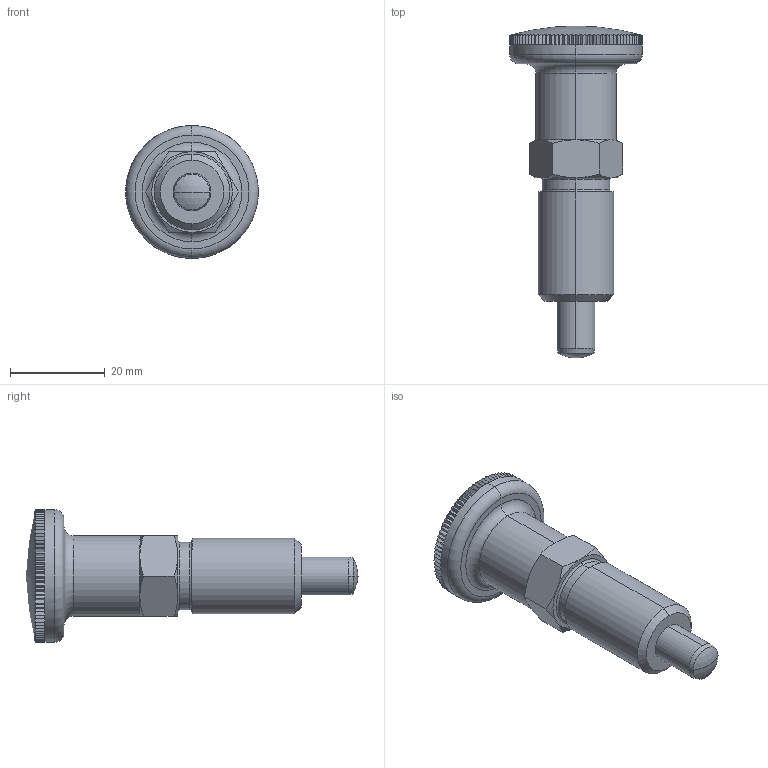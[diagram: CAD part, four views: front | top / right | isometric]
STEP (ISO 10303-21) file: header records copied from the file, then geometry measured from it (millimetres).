
FILE_DESCRIPTION (( 'STEP AP203' ), '1' );
FILE_NAME ('32690.W0133.step', '2011-03-25T12:22:34', ( 'Wixroyd' ), ( 'Wixroyd' ), 'SwSTEP 2.0', 'SolidWorks 2009', '' );
FILE_SCHEMA (( 'CONFIG_CONTROL_DESIGN' ));
Length unit declared in the file: millimetre
Products named in the file (4): Part1_3269.W133; 32690.W0133; Part2_3269.W133; Part3_3269.W133
Assembly tree (3 placements, depth 2):
  32690.W0133
    Part2_3269.W133
    Part1_3269.W133
    Part3_3269.W133
Bounding box: 28 x 70 x 28 mm (x, y, z)
Volume: 14764.8 mm3; surface area: 8748.8 mm2
Topology: 3 solids, 3 shells, 354 faces, 814 edges, 472 vertices
Faces by surface type: plane 305, cylinder 21, cone 16, torus 8, sphere 4
Entity records: 10372 total; most frequent: DIRECTION 1870, CARTESIAN_POINT 1786, ORIENTED_EDGE 1628, EDGE_CURVE 814, AXIS2_PLACEMENT_3D 720, VERTEX_POINT 472, VECTOR 430, LINE 430
